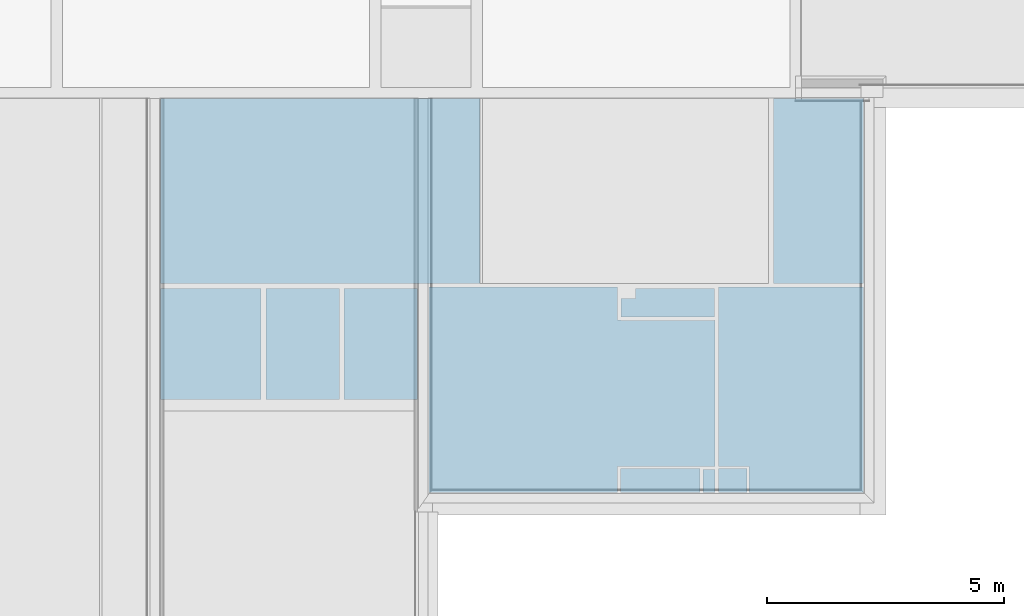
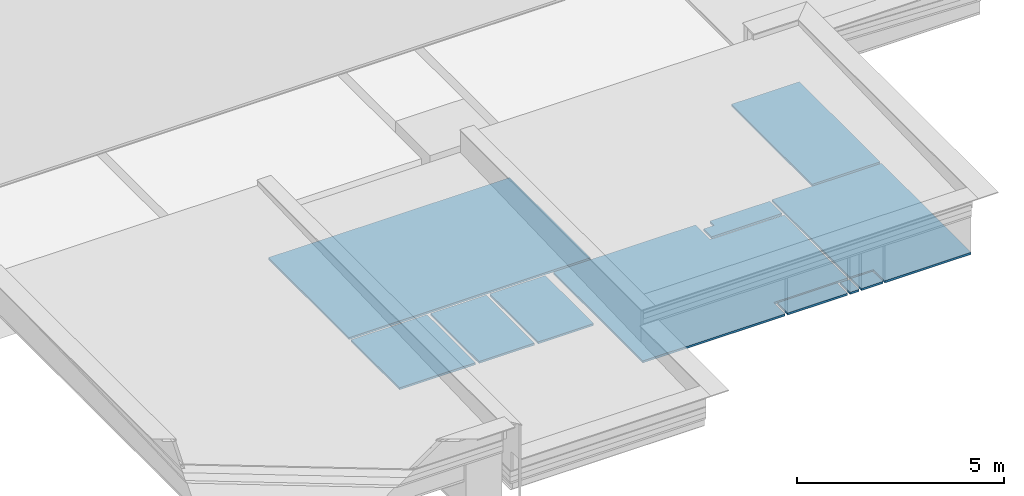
# One storey, part 6 of 13: 1 building element part, 1 element without a shape of its own.
"""IFC2X3 building model written with IfcOpenShell, lengths in metres."""

from ifc_helpers import new_model, entity, si_unit, converted_unit, derived_unit, money_unit, direction, frame, origin_with_axes, place, context, subcontext, project, spatial, polyline, outline, extrude, boolean, faceted_brep, material, type_object, element, aggregate, save


model = new_model("IFC2X3")

# Units and contexts
model_context = context("Model", 3, precision=1e-05, world=origin_with_axes(), true_north=direction((0.0, 1.0)))
body_context = subcontext(model_context, "Body", "Model", "MODEL_VIEW")
ifc_project = project(units=[si_unit("LENGTHUNIT", "METRE"), si_unit("AREAUNIT", "SQUARE_METRE"), si_unit("VOLUMEUNIT", "CUBIC_METRE"), converted_unit("PLANEANGLEUNIT", "DEGREE", entity("IfcPlaneAngleMeasure", 0.0174532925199), si_unit("PLANEANGLEUNIT", "RADIAN"), dimensions=[0, 0, 0, 0, 0, 0, 0]), money_unit("CHF"), converted_unit("TIMEUNIT", "Year", entity("IfcTimeMeasure", 31556926.0), si_unit("TIMEUNIT", "SECOND"), dimensions=[0, 0, 1, 0, 0, 0, 0]), si_unit("MASSUNIT", "GRAM", prefix="KILO"), si_unit("THERMODYNAMICTEMPERATUREUNIT", "DEGREE_CELSIUS"), si_unit("LUMINOUSINTENSITYUNIT", "LUMEN"), si_unit("ENERGYUNIT", "JOULE", prefix="MEGA"), derived_unit("THERMALCONDUCTANCEUNIT", [(si_unit("POWERUNIT", "WATT"), 1), (si_unit("LENGTHUNIT", "METRE"), -1), (si_unit("THERMODYNAMICTEMPERATUREUNIT", "KELVIN"), -1)]), derived_unit("SPECIFICHEATCAPACITYUNIT", [(si_unit("ENERGYUNIT", "JOULE"), 1), (si_unit("MASSUNIT", "GRAM", prefix="KILO"), -1), (si_unit("THERMODYNAMICTEMPERATUREUNIT", "KELVIN"), -1)]), derived_unit("MASSDENSITYUNIT", [(si_unit("MASSUNIT", "GRAM", prefix="KILO"), 1), (si_unit("VOLUMEUNIT", "CUBIC_METRE"), -1)])], contexts=[model_context])

# Site, building, storey
site_placement = place(None, origin_with_axes())
site = spatial("IfcSite", under=ifc_project, at=site_placement, Name="Site", CompositionType="ELEMENT")
building_placement = place(site_placement, origin_with_axes())
building = spatial("IfcBuilding", under=site, at=building_placement, Name="Bâtiment", CompositionType="ELEMENT")
storey_placement = place(building_placement, frame((0.0, 0.0, 3.0), z_axis=(0.0, 0.0, 1.0), x_axis=(1.0, 0.0, 0.0)))
storey = spatial("IfcBuildingStorey", under=building, at=storey_placement, Name="Toitures", CompositionType="ELEMENT", Elevation=3.0)

# Slab, building element part
slab_type = type_object("IfcSlabType", Name="Plafond dalles minérale 2570", PredefinedType="FLOOR")
slab_placement = place(storey_placement, frame((23.4594696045, 14.8800000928, 2.07), z_axis=(0.0, 0.0, 1.0), x_axis=(1.0, 0.0, 0.0)))
slab = element("IfcSlab", 1, at=slab_placement, inside=storey, type_object=slab_type, Name="Faux plafonds suspendus", PredefinedType="FLOOR")
ifc_material = material(Name="Aluminium")
building_element_part_placement = place(slab_placement, origin_with_axes())
building_element_part = element("IfcBuildingElementPart", 2, at=building_element_part_placement, material=ifc_material, Name="Aluminium", context=body_context, shape_type="CSG", body=[
    boolean("DIFFERENCE", boolean("DIFFERENCE", boolean("DIFFERENCE", boolean("DIFFERENCE", boolean("DIFFERENCE", extrude(outline(polyline([(0.0, 0.0), (-4.64999982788, 0.0), (-4.64999982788, -6.33987439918), (0.770000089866, -6.33987439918), (0.770000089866, -3.89987444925), (1.01000026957, -3.89987444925), (1.01000026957, -8.29987443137), (10.1700001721, -8.29987443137), (10.1700001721, 0.0), (8.27000015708, 0.0), (8.27000022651, -3.89987433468), (2.1400002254, -3.89987444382), (2.14000015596, -5.37518882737e-08), (1.90000034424, 0.0), (0.0, 0.0)])), frame((0.0, 0.0, -2.56), z_axis=(0.0, 0.0, 1.0), x_axis=(1.0, 0.0, 0.0)), (0.0, 0.0, 1.0), 0.06), faceted_brep([(7.11000017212, -7.74987443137, -2.56), (7.11000017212, -3.96987443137, -2.56), (10.1700001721, -3.96987443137, -2.56), (10.1700001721, -3.89987443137, -2.56), (8.27000022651, -3.89987443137, -2.56), (2.1400002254, -3.89987444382, -2.56), (2.14000015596, -5.37518882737e-08, -2.56), (2.09000008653, -1.07356783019e-07, -2.56), (2.09000008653, -3.89987443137, -2.56), (1.01000026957, -3.89987443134, -2.56), (1.01000026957, -3.96987443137, -2.56), (4.98000017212, -3.96987443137, -2.56), (4.98000017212, -4.66987443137, -2.56), (5.06000017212, -4.66987443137, -2.56), (5.06000017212, -4.67987443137, -2.56), (7.03000017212, -4.67987443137, -2.56), (7.03000017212, -4.66987443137, -2.56), (7.04000017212, -4.66987443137, -2.56), (7.04000017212, -7.74987443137, -2.56), (6.73300017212, -7.74987443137, -2.56), (6.72000017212, -7.74987443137, -2.56), (4.99300017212, -7.74987443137, -2.56), (4.98000017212, -7.74987443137, -2.56), (4.98000017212, -8.29987443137, -2.56), (5.05000017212, -8.29987443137, -2.56), (5.05000017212, -7.79987443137, -2.56), (6.72000017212, -7.79987443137, -2.56), (6.72000017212, -8.29987443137, -2.56), (6.79000017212, -8.29987443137, -2.56), (6.79000017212, -7.81987443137, -2.56), (7.04000017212, -7.81987443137, -2.56), (7.04000017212, -8.29987443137, -2.56), (7.11000017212, -8.29987443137, -2.56), (7.11000017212, -7.79987443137, -2.56), (7.71000017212, -7.79987443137, -2.56), (7.71000017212, -8.29987443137, -2.56), (7.76000017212, -8.29987443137, -2.56), (7.76000017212, -7.74987443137, -2.56), (7.74700017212, -7.74987443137, -2.56), (7.03000017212, -3.99987443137, -2.56), (7.03000017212, -4.59987443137, -2.56), (5.06000017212, -4.59987443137, -2.56), (5.06000017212, -4.21287444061, -2.56), (5.36000017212, -4.21287444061, -2.56), (5.36000017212, -3.99987443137, -2.56), (7.11000017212, -7.74987443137, -2.57), (7.11000017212, -3.96987443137, -2.57), (10.1700001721, -3.96987443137, -2.57), (10.1700001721, -3.89987443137, -2.57), (8.27000022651, -3.89987443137, -2.57), (2.1400002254, -3.89987444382, -2.57), (2.14000015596, -5.37518882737e-08, -2.57), (2.09000008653, -1.07356783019e-07, -2.57), (2.09000008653, -3.89987443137, -2.57), (1.01000026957, -3.89987443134, -2.57), (1.01000026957, -3.96987443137, -2.57), (4.98000017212, -3.96987443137, -2.57), (4.98000017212, -4.66987443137, -2.57), (5.06000017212, -4.66987443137, -2.57), (5.06000017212, -4.67987443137, -2.57), (7.03000017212, -4.67987443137, -2.57), (7.03000017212, -4.66987443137, -2.57), (7.04000017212, -4.66987443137, -2.57), (7.04000017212, -7.74987443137, -2.57), (6.73300017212, -7.74987443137, -2.57), (6.72000017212, -7.74987443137, -2.57), (4.99300017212, -7.74987443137, -2.57), (4.98000017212, -7.74987443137, -2.57), (4.98000017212, -8.29987443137, -2.57), (5.05000017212, -8.29987443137, -2.57), (5.05000017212, -7.79987443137, -2.57), (6.72000017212, -7.79987443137, -2.57), (6.72000017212, -8.29987443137, -2.57), (6.79000017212, -8.29987443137, -2.57), (6.79000017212, -7.81987443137, -2.57), (7.04000017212, -7.81987443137, -2.57), (7.04000017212, -8.29987443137, -2.57), (7.11000017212, -8.29987443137, -2.57), (7.11000017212, -7.79987443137, -2.57), (7.71000017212, -7.79987443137, -2.57), (7.71000017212, -8.29987443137, -2.57), (7.76000017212, -8.29987443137, -2.57), (7.76000017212, -7.74987443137, -2.57), (7.74700017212, -7.74987443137, -2.57), (7.03000017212, -3.99987443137, -2.57), (7.03000017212, -4.59987443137, -2.57), (5.06000017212, -4.59987443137, -2.57), (5.06000017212, -4.21287444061, -2.57), (5.36000017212, -4.21287444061, -2.57), (5.36000017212, -3.99987443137, -2.57)], [[[0, 1, 2, 3, 4, 5, 6, 7, 8, 9, 10, 11, 12, 13, 14, 15, 16, 17, 18, 19, 20, 21, 22, 23, 24, 25, 26, 27, 28, 29, 30, 31, 32, 33, 34, 35, 36, 37, 38], [39, 40, 41, 42, 43, 44]], [[45, 46, 1, 0]], [[47, 2, 1, 46]], [[2, 47, 48, 3]], [[3, 48, 49, 4]], [[4, 49, 50, 5]], [[51, 6, 5, 50]], [[51, 52, 7, 6]], [[8, 7, 52, 53]], [[8, 53, 54, 9]], [[10, 9, 54, 55]], [[10, 55, 56, 11]], [[11, 56, 57, 12]], [[12, 57, 58, 13]], [[13, 58, 59, 14]], [[14, 59, 60, 15]], [[15, 60, 61, 16]], [[16, 61, 62, 17]], [[17, 62, 63, 18]], [[18, 63, 64, 19]], [[19, 64, 65, 20]], [[20, 65, 66, 21]], [[21, 66, 67, 22]], [[22, 67, 68, 23]], [[24, 23, 68, 69]], [[70, 25, 24, 69]], [[71, 26, 25, 70]], [[72, 27, 26, 71]], [[72, 73, 28, 27]], [[28, 73, 74, 29]], [[29, 74, 75, 30]], [[30, 75, 76, 31]], [[32, 31, 76, 77]], [[33, 32, 77, 78]], [[34, 33, 78, 79]], [[35, 34, 79, 80]], [[81, 36, 35, 80]], [[81, 82, 37, 36]], [[82, 83, 38, 37]], [[83, 45, 0, 38]], [[40, 39, 84, 85]], [[41, 40, 85, 86]], [[42, 41, 86, 87]], [[43, 42, 87, 88]], [[44, 43, 88, 89]], [[39, 44, 89, 84]], [[82, 81, 80, 79, 78, 77, 76, 75, 74, 73, 72, 71, 70, 69, 68, 67, 66, 65, 64, 63, 62, 61, 60, 59, 58, 57, 56, 55, 54, 53, 52, 51, 50, 49, 48, 47, 46, 45, 83], [84, 89, 88, 87, 86, 85]]])), faceted_brep([(0.770000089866, -3.89987443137, -2.57), (0.770000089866, -3.89987443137, -2.56), (0.770000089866, -3.99987443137, -2.56), (0.770000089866, -3.99987443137, -2.57), (-4.64999982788, -3.89987443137, -2.57), (-4.64999982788, -3.89987443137, -2.56), (-4.64999982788, -3.99987443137, -2.56), (-2.52999982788, -3.99987443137, -2.56), (-2.52999982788, -6.33987439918, -2.56), (-2.42999982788, -6.33987439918, -2.56), (-2.42999982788, -3.99987443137, -2.56), (-0.879999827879, -3.99987443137, -2.56), (-0.879999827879, -6.33987439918, -2.56), (-0.779999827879, -6.33987439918, -2.56), (-0.779999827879, -3.99987443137, -2.56), (-0.779999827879, -3.99987443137, -2.57), (-0.779999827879, -6.33987439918, -2.57), (-0.879999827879, -6.33987439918, -2.57), (-0.879999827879, -3.99987443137, -2.57), (-2.42999982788, -3.99987443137, -2.57), (-2.42999982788, -6.33987439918, -2.57), (-2.52999982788, -6.33987439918, -2.57), (-2.52999982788, -3.99987443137, -2.57), (-4.64999982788, -3.99987443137, -2.57)], [[[0, 1, 2, 3]], [[1, 0, 4, 5]], [[1, 5, 6, 7, 8, 9, 10, 11, 12, 13, 14, 2]], [[15, 3, 2, 14]], [[4, 0, 3, 15, 16, 17, 18, 19, 20, 21, 22, 23]], [[5, 4, 23, 6]], [[22, 7, 6, 23]], [[21, 8, 7, 22]], [[8, 21, 20, 9]], [[10, 9, 20, 19]], [[11, 10, 19, 18]], [[12, 11, 18, 17]], [[17, 16, 13, 12]], [[13, 16, 15, 14]]])), faceted_brep([(0.770000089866, -3.89987443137, -2.56), (0.770000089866, -3.89987443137, -2.5), (0.770000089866, -3.99987443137, -2.5), (0.770000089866, -3.99987443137, -2.56), (-4.64999982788, -3.89987443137, -2.5), (-4.64999982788, -3.89987443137, -2.56), (-0.879999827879, -6.33987439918, -2.5), (-0.779999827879, -6.33987439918, -2.5), (-0.779999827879, -3.99987443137, -2.5), (-4.64999982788, -3.99987443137, -2.5), (-2.52999982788, -3.99987443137, -2.5), (-2.52999982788, -6.33987439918, -2.5), (-2.42999982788, -6.33987439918, -2.5), (-2.42999982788, -3.99987443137, -2.5), (-0.879999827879, -3.99987443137, -2.5), (-0.779999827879, -3.99987443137, -2.56), (-2.42999982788, -6.33987439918, -2.56), (-2.52999982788, -6.33987439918, -2.56), (-2.52999982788, -3.99987443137, -2.56), (-4.64999982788, -3.99987443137, -2.56), (-0.779999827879, -6.33987439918, -2.56), (-0.879999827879, -6.33987439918, -2.56), (-0.879999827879, -3.99987443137, -2.56), (-2.42999982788, -3.99987443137, -2.56)], [[[0, 1, 2, 3]], [[4, 1, 0, 5]], [[6, 7, 8, 2, 1, 4, 9, 10, 11, 12, 13, 14]], [[15, 3, 2, 8]], [[16, 17, 18, 19, 5, 0, 3, 15, 20, 21, 22, 23]], [[4, 5, 19, 9]], [[21, 20, 7, 6]], [[15, 8, 7, 20]], [[9, 19, 18, 10]], [[10, 18, 17, 11]], [[11, 17, 16, 12]], [[16, 23, 13, 12]], [[23, 22, 14, 13]], [[22, 21, 6, 14]]])), faceted_brep([(7.04000017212, -8.29987443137, -2.5), (7.11000017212, -8.29987443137, -2.5), (7.11000017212, -7.79987443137, -2.5), (7.71000017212, -7.79987443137, -2.5), (7.71000017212, -8.29987443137, -2.5), (7.76000017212, -8.29987443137, -2.5), (7.76000017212, -7.74987443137, -2.5), (7.74700017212, -7.74987443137, -2.5), (7.11000017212, -7.74987443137, -2.5), (7.11000017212, -3.96987443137, -2.5), (10.1700001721, -3.96987443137, -2.5), (10.1700001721, -3.89987443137, -2.5), (8.27000022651, -3.89987443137, -2.5), (2.1400002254, -3.89987444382, -2.5), (2.14000015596, -5.37518882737e-08, -2.5), (2.09000008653, -1.07356783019e-07, -2.5), (2.09000008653, -3.89987443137, -2.5), (1.01000026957, -3.89987443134, -2.5), (1.01000026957, -3.96987443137, -2.5), (4.98000017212, -3.96987443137, -2.5), (4.98000017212, -4.66987443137, -2.5), (5.06000017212, -4.66987443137, -2.5), (5.06000017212, -4.67987443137, -2.5), (7.03000017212, -4.67987443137, -2.5), (7.03000017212, -4.66987443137, -2.5), (7.04000017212, -4.66987443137, -2.5), (7.04000017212, -7.74987443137, -2.5), (6.73300017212, -7.74987443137, -2.5), (6.72000017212, -7.74987443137, -2.5), (4.99300017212, -7.74987443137, -2.5), (4.98000017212, -7.74987443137, -2.5), (4.98000017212, -8.29987443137, -2.5), (5.05000017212, -8.29987443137, -2.5), (5.05000017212, -7.79987443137, -2.5), (6.72000017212, -7.79987443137, -2.5), (6.72000017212, -8.29987443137, -2.5), (6.79000017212, -8.29987443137, -2.5), (6.79000017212, -7.81987443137, -2.5), (7.04000017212, -7.81987443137, -2.5), (5.36000017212, -4.21287444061, -2.5), (5.36000017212, -3.99987443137, -2.5), (7.03000017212, -3.99987443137, -2.5), (7.03000017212, -4.59987443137, -2.5), (5.06000017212, -4.59987443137, -2.5), (5.06000017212, -4.21287444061, -2.5), (7.04000017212, -8.29987443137, -2.56), (7.11000017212, -8.29987443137, -2.56), (7.11000017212, -7.79987443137, -2.56), (7.71000017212, -7.79987443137, -2.56), (7.71000017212, -8.29987443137, -2.56), (7.76000017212, -8.29987443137, -2.56), (7.76000017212, -7.74987443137, -2.56), (7.74700017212, -7.74987443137, -2.56), (7.11000017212, -7.74987443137, -2.56), (7.11000017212, -3.96987443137, -2.56), (10.1700001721, -3.96987443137, -2.56), (10.1700001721, -3.89987443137, -2.56), (8.27000022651, -3.89987443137, -2.56), (2.1400002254, -3.89987444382, -2.56), (2.14000015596, -5.37518882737e-08, -2.56), (2.09000008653, -1.07356783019e-07, -2.56), (2.09000008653, -3.89987443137, -2.56), (1.01000026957, -3.89987443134, -2.56), (1.01000026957, -3.96987443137, -2.56), (4.98000017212, -3.96987443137, -2.56), (4.98000017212, -4.66987443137, -2.56), (5.06000017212, -4.66987443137, -2.56), (5.06000017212, -4.67987443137, -2.56), (7.03000017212, -4.67987443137, -2.56), (7.03000017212, -4.66987443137, -2.56), (7.04000017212, -4.66987443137, -2.56), (7.04000017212, -7.74987443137, -2.56), (6.73300017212, -7.74987443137, -2.56), (6.72000017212, -7.74987443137, -2.56), (4.99300017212, -7.74987443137, -2.56), (4.98000017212, -7.74987443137, -2.56), (4.98000017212, -8.29987443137, -2.56), (5.05000017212, -8.29987443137, -2.56), (5.05000017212, -7.79987443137, -2.56), (6.72000017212, -7.79987443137, -2.56), (6.72000017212, -8.29987443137, -2.56), (6.79000017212, -8.29987443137, -2.56), (6.79000017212, -7.81987443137, -2.56), (7.04000017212, -7.81987443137, -2.56), (5.36000017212, -4.21287444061, -2.56), (5.36000017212, -3.99987443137, -2.56), (7.03000017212, -3.99987443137, -2.56), (7.03000017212, -4.59987443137, -2.56), (5.06000017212, -4.59987443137, -2.56), (5.06000017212, -4.21287444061, -2.56)], [[[0, 1, 2, 3, 4, 5, 6, 7, 8, 9, 10, 11, 12, 13, 14, 15, 16, 17, 18, 19, 20, 21, 22, 23, 24, 25, 26, 27, 28, 29, 30, 31, 32, 33, 34, 35, 36, 37, 38], [39, 40, 41, 42, 43, 44]], [[1, 0, 45, 46]], [[46, 47, 2, 1]], [[47, 48, 3, 2]], [[48, 49, 4, 3]], [[50, 5, 4, 49]], [[6, 5, 50, 51]], [[7, 6, 51, 52]], [[8, 7, 52, 53]], [[9, 8, 53, 54]], [[55, 10, 9, 54]], [[10, 55, 56, 11]], [[12, 11, 56, 57]], [[12, 57, 58, 13]], [[59, 14, 13, 58]], [[59, 60, 15, 14]], [[61, 16, 15, 60]], [[62, 17, 16, 61]], [[18, 17, 62, 63]], [[64, 19, 18, 63]], [[65, 20, 19, 64]], [[66, 21, 20, 65]], [[67, 22, 21, 66]], [[68, 23, 22, 67]], [[69, 24, 23, 68]], [[70, 25, 24, 69]], [[71, 26, 25, 70]], [[72, 27, 26, 71]], [[73, 28, 27, 72]], [[74, 29, 28, 73]], [[75, 30, 29, 74]], [[76, 31, 30, 75]], [[32, 31, 76, 77]], [[32, 77, 78, 33]], [[33, 78, 79, 34]], [[34, 79, 80, 35]], [[80, 81, 36, 35]], [[82, 37, 36, 81]], [[83, 38, 37, 82]], [[45, 0, 38, 83]], [[84, 85, 40, 39]], [[85, 86, 41, 40]], [[86, 87, 42, 41]], [[87, 88, 43, 42]], [[88, 89, 44, 43]], [[89, 84, 39, 44]], [[59, 58, 57, 56, 55, 54, 53, 52, 51, 50, 49, 48, 47, 46, 45, 83, 82, 81, 80, 79, 78, 77, 76, 75, 74, 73, 72, 71, 70, 69, 68, 67, 66, 65, 64, 63, 62, 61, 60], [88, 87, 86, 85, 84, 89]]])), faceted_brep([(0.770000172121, -3.99987443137, -2.28), (0.770000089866, -3.99987443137, -2.5), (0.770000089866, -3.89987444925, -2.5), (0.770000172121, -3.89987443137, -2.28), (0.770000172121, -3.89987443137, -2.27), (0.770000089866, -3.89987444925, 0.0), (0.770000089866, -6.33987439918, 0.0), (0.770000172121, -6.33987439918, -2.28), (0.715000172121, -3.99987443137, -2.28), (0.715000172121, -3.99987443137, -1.79569560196), (-0.779999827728, -3.99987443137, -1.79569560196), (-0.779999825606, -3.99987443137, -2.5), (-0.779999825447, -6.33987439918, -2.5), (-0.879999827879, -6.33987439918, -2.5), (-0.879999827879, -3.99987443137, -2.5), (-2.42999982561, -3.99987443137, -2.5), (-2.42999982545, -6.33987439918, -2.5), (-2.52999982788, -6.33987439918, -2.5), (-2.52999982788, -3.99987443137, -2.5), (-4.64999982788, -3.99987443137, -2.5), (-4.64999982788, -3.89987443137, -2.5), (0.715000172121, -3.8998744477, -1.79219560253), (0.715000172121, -3.89987443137, -2.28), (-4.64999979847, -3.89987443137, -2.28), (-4.59499979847, -3.89987443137, -2.28), (-4.59499979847, -3.89987443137, -1.79219560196), (0.770000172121, -8.8065945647e-08, -2.28), (0.770000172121, -8.8065945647e-08, -2.27), (1.01000026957, -3.89987444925, 0.0), (1.01000017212, -3.89987443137, -2.27), (1.01000026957, -8.29987443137, 0.0), (10.1700001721, -8.29987443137, 0.0), (10.1700001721, 0.0, 0.0), (8.27000015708, 0.0, 0.0), (8.27000022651, -3.89987433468, 0.0), (2.1400002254, -3.89987444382, 0.0), (2.14000015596, -5.37518882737e-08, 0.0), (1.90000034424, 0.0, 0.0), (0.0, 0.0, 0.0), (-4.64999982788, 0.0, 0.0), (-4.64999982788, -6.33987439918, 0.0), (0.715000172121, -6.33987439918, -2.28), (-4.64999979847, -6.33987439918, -2.28), (-4.59499979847, -6.33987439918, -2.28), (-4.59499979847, -6.33987439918, -1.87759560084), (-2.52999982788, -6.33987439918, -1.87759560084), (-2.42999982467, -6.33987439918, -1.87759560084), (-0.879999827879, -6.33987439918, -1.87759560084), (-0.779999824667, -6.33987439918, -1.87759560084), (0.715000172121, -6.33987439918, -1.87759560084), (-0.879999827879, -3.99987443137, -1.79569560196), (-2.42999982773, -3.99987443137, -1.79569560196), (-2.52999982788, -3.99987443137, -1.79569560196), (-4.59499979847, -3.99987443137, -2.28), (-4.64999979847, -3.99987443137, -2.28), (-4.59499979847, -3.99987443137, -1.79569560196), (-4.64999979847, -8.8065945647e-08, -2.28), (0.715000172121, -8.8065945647e-08, -1.65569999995), (0.715000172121, -8.8065945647e-08, -2.28), (-4.59499979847, -8.8065945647e-08, -2.28), (-4.59499979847, -8.8065945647e-08, -1.65569999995), (0.0, -8.8065945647e-08, -1.65569999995), (1.90000034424, -6.83405616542e-08, -1.15569999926), (1.06500017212, 0.0, -1.15569999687), (1.06500017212, 0.0, -1.18963966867), (1.01000017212, -5.37068345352e-08, -1.18963966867), (1.01000017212, -2.26407070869e-08, -2.27), (1.01000026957, -8.29987443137, -1.44619560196), (1.01000026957, -3.89987444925, -2.5), (1.01000026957, -3.96987443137, -2.5), (1.01000026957, -3.96987443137, -1.29464560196), (7.11000017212, -8.29987443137, -1.44619560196), (7.71000017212, -8.29987443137, -1.44619560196), (7.71000017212, -8.29987443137, -2.5), (7.76000017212, -8.29987443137, -2.5), (7.76000017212, -8.29987443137, -1.44619560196), (10.1700001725, -8.29987443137, -1.44619560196), (4.98000017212, -8.29987443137, -1.44619560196), (4.98000017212, -8.29987443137, -2.5), (5.05000017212, -8.29987443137, -2.5), (5.05000017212, -8.29987443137, -1.44619560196), (6.72000017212, -8.29987443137, -1.44619560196), (6.72000017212, -8.29987443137, -2.5), (6.79000017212, -8.29987443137, -2.5), (6.79000017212, -8.29987443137, -1.44619560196), (7.04000017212, -8.29987443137, -1.44619560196), (7.04000017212, -8.29987443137, -2.5), (7.11000017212, -8.29987443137, -2.5), (10.1700001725, -3.96987443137, -1.29464560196), (10.1700001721, -3.96987443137, -2.5), (10.1700001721, -3.89987443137, -2.5), (10.1700001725, -3.89987444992, -1.29219560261), (10.1700001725, -0.969704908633, -1.18963966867), (10.1700001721, 0.0, -1.18963966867), (8.86000017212, 0.0, -1.18963966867), (8.86000017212, 0.0, -1.15569999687), (8.27000015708, 0.0, -1.15569999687), (8.27000022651, -3.89987441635, -1.29219560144), (2.14000021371, -3.89987443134, -1.29219560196), (8.27000022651, -3.89987433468, -2.5), (2.1400002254, -3.89987444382, -2.5), (2.14000008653, -3.89987443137, -1.80977391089), (2.14000011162, -8.79833343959e-08, -1.15569999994), (1.01000019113, -0.969704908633, -1.18963966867), (1.06500017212, -0.969704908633, -1.18963966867), (1.01000026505, -3.89987444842, -1.29219560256), (2.09000008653, -3.89987443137, -1.80977391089), (2.09000008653, -3.89987443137, -2.5), (2.09000008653, -1.07356783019e-07, -2.5), (2.14000015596, -5.37518882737e-08, -2.5), (7.11000017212, -3.96987443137, -2.5), (7.11000017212, -7.74987443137, -2.5), (7.74700017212, -7.74987443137, -2.5), (7.76000017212, -7.74987443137, -2.5), (7.71000017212, -7.79987443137, -2.5), (7.11000017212, -7.79987443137, -2.5), (7.04000017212, -7.81987443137, -2.5), (6.79000017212, -7.81987443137, -2.5), (6.72000017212, -7.79987443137, -2.5), (5.05000017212, -7.79987443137, -2.5), (4.98000017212, -7.74987443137, -2.5), (4.99300017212, -7.74987443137, -2.5), (6.72000017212, -7.74987443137, -2.5), (6.73300017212, -7.74987443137, -2.5), (7.04000017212, -7.74987443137, -2.5), (7.04000017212, -4.66987443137, -2.5), (7.03000017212, -4.66987443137, -2.5), (7.03000017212, -4.67987443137, -2.5), (5.06000017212, -4.67987443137, -2.5), (5.06000017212, -4.66987443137, -2.5), (4.98000017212, -4.66987443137, -2.5), (4.98000017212, -3.96987443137, -2.5), (5.36000017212, -4.21287444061, -2.5), (5.06000017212, -4.21287444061, -2.5), (5.06000017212, -4.59987443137, -2.5), (7.03000017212, -4.59987443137, -2.5), (7.03000017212, -3.99987443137, -2.5), (5.36000017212, -3.99987443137, -2.5), (4.98000017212, -3.96987443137, -1.29464560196), (7.04000017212, -4.66987443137, -1.31914560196), (7.04000017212, -7.74987443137, -1.42694560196), (6.73300017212, -7.74987443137, -1.42694560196), (6.72000017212, -7.74987443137, -1.42694560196), (4.99300017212, -7.74987443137, -1.42694560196), (4.98000017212, -7.74987443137, -1.42694560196), (4.98000017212, -4.66987443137, -1.31914560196), (5.06000017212, -4.66987443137, -1.31914560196), (5.06000017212, -4.67987443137, -1.31949560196), (7.03000017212, -4.67987443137, -1.31949560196), (7.03000017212, -4.66987443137, -1.31914560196), (7.71000017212, -7.79987443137, -1.42869560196), (7.11000017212, -7.79987443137, -1.42869560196), (7.76000017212, -7.74987443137, -1.42694560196), (7.74700017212, -7.74987443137, -1.42694560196), (7.11000017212, -7.74987443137, -1.42694560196), (7.11000017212, -3.96987443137, -1.29464560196), (5.05000017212, -7.79987443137, -1.42869560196), (6.72000017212, -7.79987443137, -1.42869560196), (6.79000017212, -7.81987443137, -1.42939560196), (7.04000017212, -7.81987443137, -1.42939560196), (8.86000017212, -0.0518744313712, -1.15751560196), (10.1150001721, -0.0518744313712, -1.15751560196), (10.1150001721, -0.969704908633, -1.18963966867), (10.1150001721, -0.0518744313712, -1.18963966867), (8.86000017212, -0.0518744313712, -1.18963966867), (2.14000008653, -1.07356783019e-07, -1.80977391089), (2.09000008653, -1.07356783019e-07, -1.80977391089), (5.36000017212, -4.21287444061, -2.12), (5.06000017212, -4.21287444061, -2.12), (5.06000017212, -3.99987443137, -1.29569560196), (5.06000017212, -4.59987443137, -1.31669560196), (5.06000017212, -3.99987443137, -2.12), (7.03000017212, -4.59987443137, -1.31669560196), (7.03000017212, -3.99987443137, -1.29569560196), (5.36000017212, -3.99987443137, -2.12)], [[[0, 1, 2, 3, 4, 5, 6, 7]], [[1, 0, 8, 9, 10, 11]], [[11, 12, 13, 14, 15, 16, 17, 18, 19, 20, 2, 1]], [[21, 22, 3, 2, 20, 23, 24, 25]], [[4, 3, 26, 27]], [[28, 5, 4, 29]], [[30, 31, 32, 33, 34, 35, 36, 37, 38, 39, 40, 6, 5, 28]], [[41, 7, 6, 40, 42, 43, 44, 45, 17, 16, 46, 47, 13, 12, 48, 49]], [[0, 7, 41, 8]], [[41, 49, 9, 8]], [[49, 48, 10, 9]], [[12, 11, 10, 48]], [[50, 14, 13, 47]], [[51, 15, 14, 50]], [[46, 16, 15, 51]], [[45, 52, 18, 17]], [[53, 54, 19, 18, 52, 55]], [[20, 19, 54, 42, 40, 39, 56, 23]], [[22, 21, 57, 58]], [[3, 22, 58, 26]], [[24, 23, 56, 59]], [[25, 24, 59, 60]], [[61, 57, 21, 25, 60]], [[38, 37, 62, 63, 64, 65, 66, 27, 26, 58, 57, 61]], [[29, 4, 27, 66]], [[67, 30, 28, 29, 68, 69, 70]], [[71, 72, 73, 74, 75, 76, 31, 30, 67, 77, 78, 79, 80, 81, 82, 83, 84, 85, 86, 87]], [[88, 89, 90, 91, 92, 93, 32, 31, 76]], [[32, 93, 94, 95, 96, 33]], [[97, 34, 33, 96]], [[98, 35, 34, 97, 99, 100, 101]], [[36, 35, 98, 102]], [[37, 36, 102, 62]], [[39, 38, 61, 60, 59, 56]], [[54, 53, 43, 42]], [[53, 55, 44, 43]], [[55, 52, 45, 44]], [[50, 47, 46, 51]], [[103, 104, 63, 62, 102, 98, 105]], [[104, 64, 63]], [[104, 103, 65, 64]], [[66, 65, 103, 105, 29]], [[68, 29, 105, 98, 101, 106, 107]], [[108, 109, 100, 99, 90, 89, 110, 111, 112, 113, 74, 73, 114, 115, 87, 86, 116, 117, 83, 82, 118, 119, 79, 78, 120, 121, 122, 123, 124, 125, 126, 127, 128, 129, 130, 131, 69, 68, 107], [132, 133, 134, 135, 136, 137]], [[138, 70, 69, 131]], [[139, 140, 141, 142, 143, 144, 77, 67, 70, 138, 145, 146, 147, 148, 149]], [[150, 72, 71, 151]], [[150, 114, 73, 72]], [[74, 113, 152, 75]], [[152, 153, 154, 155, 88, 76, 75]], [[77, 144, 120, 78]], [[80, 79, 119, 156]], [[157, 81, 80, 156]], [[157, 118, 82, 81]], [[117, 158, 84, 83]], [[84, 158, 159, 85]], [[86, 85, 159, 116]], [[71, 87, 115, 151]], [[89, 88, 155, 110]], [[90, 99, 97, 91]], [[160, 161, 162, 92, 91, 97, 96, 95]], [[162, 163, 164, 94, 93, 92]], [[94, 164, 160, 95]], [[100, 109, 165, 101]], [[166, 106, 101, 165]], [[107, 106, 166, 108]], [[109, 108, 166, 165]], [[111, 110, 155, 154]], [[112, 111, 154, 153]], [[113, 112, 153, 152]], [[151, 115, 114, 150]], [[116, 159, 158, 117]], [[156, 119, 118, 157]], [[144, 143, 121, 120]], [[143, 142, 122, 121]], [[142, 141, 123, 122]], [[141, 140, 124, 123]], [[140, 139, 125, 124]], [[139, 149, 126, 125]], [[149, 148, 127, 126]], [[148, 147, 128, 127]], [[147, 146, 129, 128]], [[146, 145, 130, 129]], [[145, 138, 131, 130]], [[133, 132, 167, 168]], [[169, 170, 134, 133, 168, 171]], [[135, 134, 170, 172]], [[136, 135, 172, 173]], [[171, 174, 137, 136, 173, 169]], [[132, 137, 174, 167]], [[164, 163, 161, 160]], [[161, 163, 162]], [[167, 174, 171, 168]], [[172, 170, 169, 173]]])),
])
aggregate(slab, [building_element_part])

save(model, "model.ifc")
